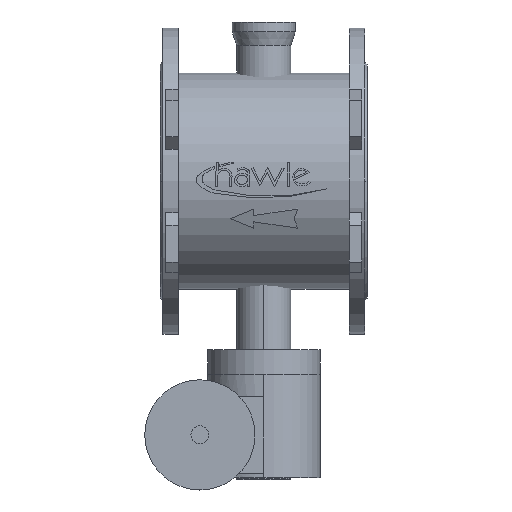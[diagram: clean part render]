
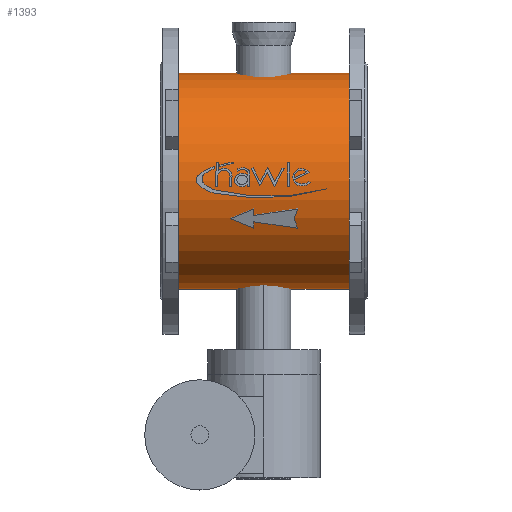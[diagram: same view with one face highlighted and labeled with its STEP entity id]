
A CAD part, top view. The second image highlights one B-rep face of the part: STEP entity #1393.
In plain terms, the highlighted cylindrical face has radius 120 mm (diameter 240 mm), a partial arc.
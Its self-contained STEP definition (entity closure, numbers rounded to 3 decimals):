
#1393=ADVANCED_FACE('',(#2666),#2667,.T.);
#2666=FACE_OUTER_BOUND('',#4114,.T.);
#2667=CYLINDRICAL_SURFACE('',#4115,120.0);
#4114=EDGE_LOOP('',(#6699,#6700,#6701,#6702));
#4115=AXIS2_PLACEMENT_3D('',#6703,#6704,#6705);
#6699=ORIENTED_EDGE('',*,*,#8598,.T.);
#6700=ORIENTED_EDGE('',*,*,#8039,.T.);
#6701=ORIENTED_EDGE('',*,*,#8599,.T.);
#6702=ORIENTED_EDGE('',*,*,#7684,.T.);
#6703=CARTESIAN_POINT('',(-210.0,0.,0.0));
#6704=DIRECTION('',(1.0,0.,0.0));
#6705=DIRECTION('',(0.,-1.0,0.0));
#7684=EDGE_CURVE('',#8969,#8968,#8971,.T.);
#8039=EDGE_CURVE('',#9560,#9561,#9562,.T.);
#8598=EDGE_CURVE('',#8968,#9560,#10345,.T.);
#8599=EDGE_CURVE('',#9561,#8969,#10346,.T.);
#8968=VERTEX_POINT('',#10781);
#8969=VERTEX_POINT('',#10782);
#8971=CIRCLE('',#10784,120.0);
#9560=VERTEX_POINT('',#11573);
#9561=VERTEX_POINT('',#11574);
#9562=CIRCLE('',#11575,120.0);
#10345=LINE('',#12596,#12597);
#10346=LINE('',#12598,#12599);
#10781=CARTESIAN_POINT('',(-210.0,-120.0,0.0));
#10782=CARTESIAN_POINT('',(-210.0,120.0,0.));
#10784=AXIS2_PLACEMENT_3D('',#12995,#12996,#12997);
#11573=CARTESIAN_POINT('',(-20.0,-120.0,0.0));
#11574=CARTESIAN_POINT('',(-20.0,120.0,0.));
#11575=AXIS2_PLACEMENT_3D('',#13574,#13575,#13576);
#12596=CARTESIAN_POINT('',(-210.0,-120.0,0.));
#12597=VECTOR('',#14244,1.0);
#12598=CARTESIAN_POINT('',(-210.0,120.0,0.));
#12599=VECTOR('',#14245,1.0);
#12995=CARTESIAN_POINT('',(-210.0,0.,0.0));
#12996=DIRECTION('',(1.0,0.,0.0));
#12997=DIRECTION('',(0.,-1.0,0.0));
#13574=CARTESIAN_POINT('',(-20.0,0.,0.0));
#13575=DIRECTION('',(-1.0,0.,0.0));
#13576=DIRECTION('',(0.,-1.0,0.0));
#14244=DIRECTION('',(1.0,0.,0.0));
#14245=DIRECTION('',(-1.0,0.,-0.0));
